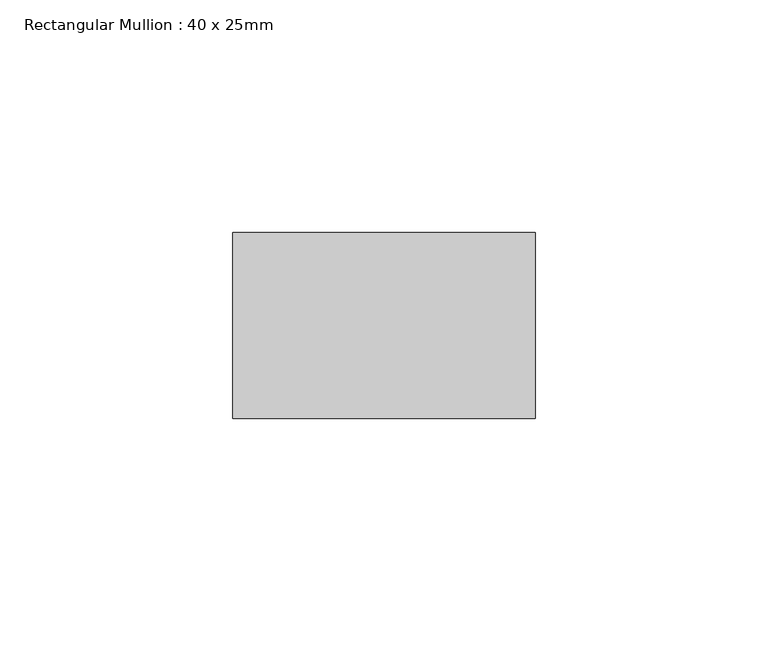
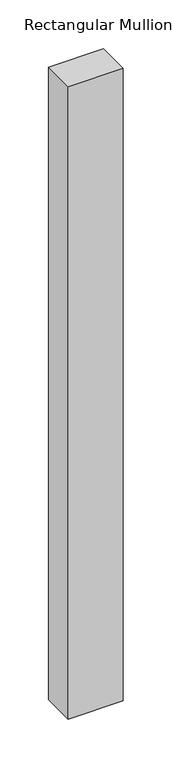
"""IFC4 building model written with IfcOpenShell, lengths in millimetres: member geometry, Rectangular Mullion : 40 x 25mm."""

from ifc_helpers import new_model, si_unit, frame, origin, place, context, project, spatial, polyline, outline, extrude, source, transform, mapped, element, save


def rectangular_mullion_40_x_25mm_08cb7f43(model_context):
    return source(origin(), model_context, "Body", "SweptSolid", [
        extrude(outline(polyline([(0.0, -20.0), (0.0, -60.0), (-65.0, -60.0), (-65.0, -20.0), (0.0, -20.0)])), frame((0.0, 0.0, -790.0), z_axis=(0.0, 0.0, 1.0), x_axis=(1.0, 0.0, 0.0)), (0.0, 0.0, 1.0), 790.0),
    ])


if __name__ == "__main__":
    model = new_model("IFC4")
    model_context = context("Model", 3, world=origin())
    ifc_project = project(units=[si_unit("LENGTHUNIT", "METRE", prefix="MILLI")], contexts=[model_context])
    site = spatial("IfcSite", under=ifc_project)
    building = spatial("IfcBuilding", under=site)
    placement = place(None, origin())
    rectangular_mullion_40_x_25mm_shape = rectangular_mullion_40_x_25mm_08cb7f43(model_context)
    element("IfcMember", 1, ObjectType="Rectangular Mullion : 40 x 25mm", at=placement, inside=building, context=model_context, shape_type="MappedRepresentation", body=[
        mapped(rectangular_mullion_40_x_25mm_shape, transform((0.0, 0.0, 0.0), x_axis=(1.0, 0.0, 0.0), y_axis=(0.0, 1.0, 0.0), z_axis=(0.0, 0.0, 1.0))),
    ])
    save(model, "model.ifc")
